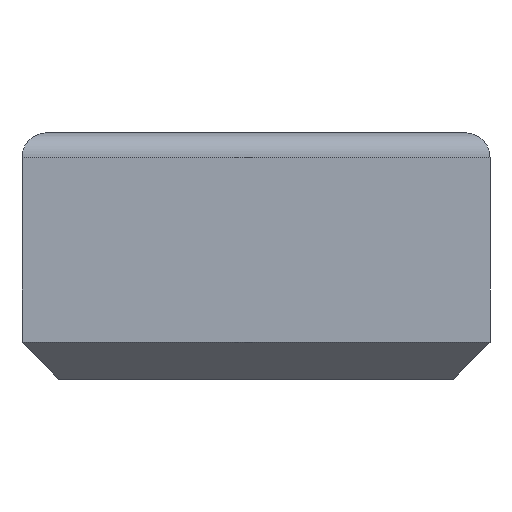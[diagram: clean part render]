
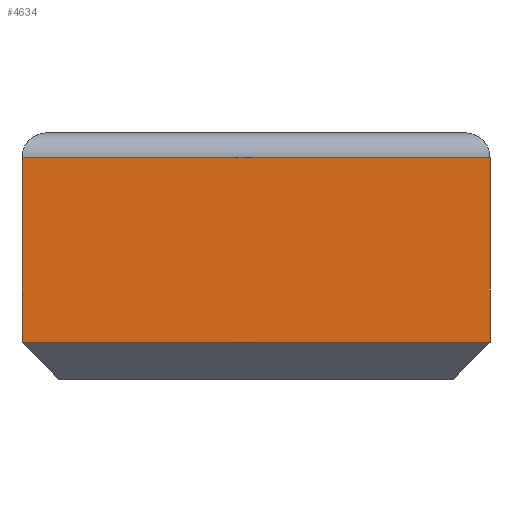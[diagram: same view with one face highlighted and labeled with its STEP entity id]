
A CAD part, front view. The second image highlights one B-rep face of the part: STEP entity #4634.
In plain terms, the highlighted planar face has unit normal (0, -1, 0).
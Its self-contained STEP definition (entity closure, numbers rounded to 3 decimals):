
#20 = DIRECTION ( 'NONE',  ( 0., 0., 1. ) ) ;
#313 = CARTESIAN_POINT ( 'NONE',  ( 0., 0., 10.5 ) ) ;
#348 = PLANE ( 'NONE',  #4653 ) ;
#382 = LINE ( 'NONE', #313, #3771 ) ;
#450 = CARTESIAN_POINT ( 'NONE',  ( 38., 0., 10.5 ) ) ;
#833 = VERTEX_POINT ( 'NONE', #1983 ) ;
#1015 = LINE ( 'NONE', #1273, #5554 ) ;
#1273 = CARTESIAN_POINT ( 'NONE',  ( 19., 0., 3. ) ) ;
#1520 = ORIENTED_EDGE ( 'NONE', *, *, #4090, .T. ) ;
#1599 = ORIENTED_EDGE ( 'NONE', *, *, #3547, .T. ) ;
#1791 = VECTOR ( 'NONE', #3756, 1000. ) ;
#1983 = CARTESIAN_POINT ( 'NONE',  ( 0., 0., 3. ) ) ;
#2069 = CARTESIAN_POINT ( 'NONE',  ( 0., 0., 18. ) ) ;
#2110 = CARTESIAN_POINT ( 'NONE',  ( 0., 0., 0. ) ) ;
#2196 = EDGE_CURVE ( 'NONE', #3224, #5119, #5439, .T. ) ;
#2559 = DIRECTION ( 'NONE',  ( 0., 0., -1. ) ) ;
#2771 = EDGE_CURVE ( 'NONE', #833, #3224, #382, .T. ) ;
#2812 = LINE ( 'NONE', #450, #5007 ) ;
#3224 = VERTEX_POINT ( 'NONE', #2069 ) ;
#3413 = FACE_OUTER_BOUND ( 'NONE', #3743, .T. ) ;
#3547 = EDGE_CURVE ( 'NONE', #3920, #5119, #2812, .T. ) ;
#3743 = EDGE_LOOP ( 'NONE', ( #1599, #4920, #3903, #1520 ) ) ;
#3756 = DIRECTION ( 'NONE',  ( 1., 0., 0. ) ) ;
#3769 = CARTESIAN_POINT ( 'NONE',  ( 38., 0., 18. ) ) ;
#3771 = VECTOR ( 'NONE', #4263, 1000. ) ;
#3903 = ORIENTED_EDGE ( 'NONE', *, *, #2771, .F. ) ;
#3920 = VERTEX_POINT ( 'NONE', #4234 ) ;
#4090 = EDGE_CURVE ( 'NONE', #833, #3920, #1015, .T. ) ;
#4234 = CARTESIAN_POINT ( 'NONE',  ( 38., 0., 3. ) ) ;
#4263 = DIRECTION ( 'NONE',  ( 0., 0., 1. ) ) ;
#4623 = CARTESIAN_POINT ( 'NONE',  ( 19., 0., 18. ) ) ;
#4634 = ADVANCED_FACE ( 'NONE', ( #3413 ), #348, .T. ) ;
#4653 = AXIS2_PLACEMENT_3D ( 'NONE', #2110, #5184, #2559 ) ;
#4785 = DIRECTION ( 'NONE',  ( 1., 0., 0. ) ) ;
#4920 = ORIENTED_EDGE ( 'NONE', *, *, #2196, .F. ) ;
#5007 = VECTOR ( 'NONE', #20, 1000. ) ;
#5119 = VERTEX_POINT ( 'NONE', #3769 ) ;
#5184 = DIRECTION ( 'NONE',  ( 0., -1., 0. ) ) ;
#5439 = LINE ( 'NONE', #4623, #1791 ) ;
#5554 = VECTOR ( 'NONE', #4785, 1000. ) ;
